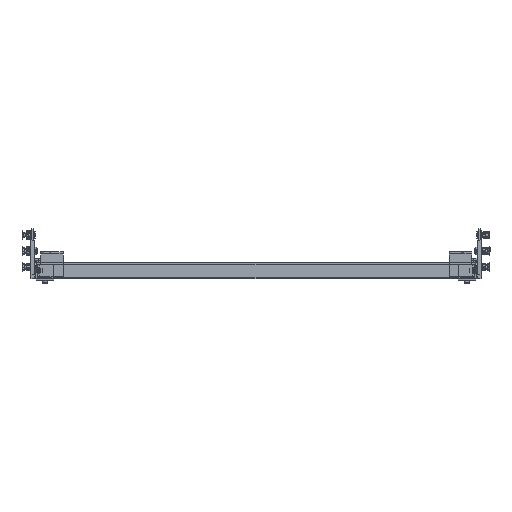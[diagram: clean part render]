
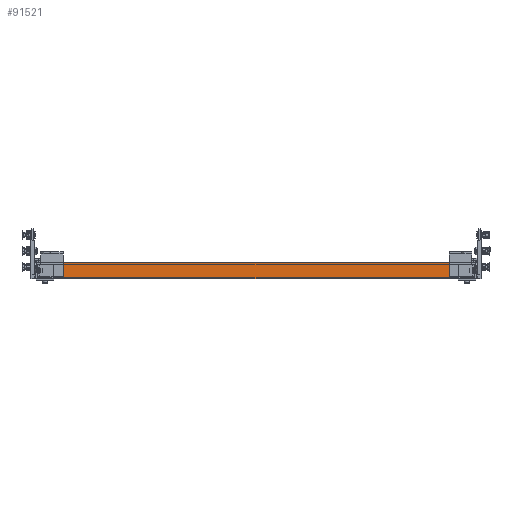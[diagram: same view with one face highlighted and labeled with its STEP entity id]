
A CAD part, front view. The second image highlights one B-rep face of the part: STEP entity #91521.
In plain terms, the highlighted planar face has unit normal (0, -1, 0) as drawn and (-1, 0, 0) by its records, which use the part's own axes.
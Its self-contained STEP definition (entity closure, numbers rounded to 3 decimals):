
#6906 = LINE ( 'NONE', #195762, #41901 ) ;
#13075 = PLANE ( 'NONE',  #54106 ) ;
#14219 = EDGE_CURVE ( 'NONE', #249986, #209405, #6906, .T. ) ;
#16962 = LINE ( 'NONE', #201207, #50598 ) ;
#23155 = CARTESIAN_POINT ( 'NONE',  ( -741.51, -314.5, 3.1 ) ) ;
#34216 = LINE ( 'NONE', #100841, #234367 ) ;
#34369 = CARTESIAN_POINT ( 'NONE',  ( -741.51, 314.5, 3.1 ) ) ;
#35584 = EDGE_CURVE ( 'NONE', #107848, #59212, #198043, .T. ) ;
#36162 = VERTEX_POINT ( 'NONE', #58309 ) ;
#37822 = DIRECTION ( 'NONE',  ( 0., 0., -1. ) ) ;
#41716 = DIRECTION ( 'NONE',  ( 0., 0., 1. ) ) ;
#41901 = VECTOR ( 'NONE', #269960, 1000. ) ;
#46980 = ORIENTED_EDGE ( 'NONE', *, *, #174970, .T. ) ;
#50598 = VECTOR ( 'NONE', #137625, 1000. ) ;
#52426 = CARTESIAN_POINT ( 'NONE',  ( -741.51, -314.5, 0. ) ) ;
#54106 = AXIS2_PLACEMENT_3D ( 'NONE', #161566, #228220, #37822 ) ;
#58309 = CARTESIAN_POINT ( 'NONE',  ( -741.51, 314.5, 25. ) ) ;
#59212 = VERTEX_POINT ( 'NONE', #52426 ) ;
#65567 = VERTEX_POINT ( 'NONE', #213569 ) ;
#70477 = DIRECTION ( 'NONE',  ( 0., 0., 1. ) ) ;
#71473 = DIRECTION ( 'NONE',  ( 0., -1., 0. ) ) ;
#79226 = CARTESIAN_POINT ( 'NONE',  ( -741.51, -314.5, 25. ) ) ;
#80345 = VERTEX_POINT ( 'NONE', #262280 ) ;
#91521 = ADVANCED_FACE ( 'NONE', ( #208013 ), #13075, .F. ) ;
#99274 = CARTESIAN_POINT ( 'NONE',  ( -741.51, 314.5, 25. ) ) ;
#100841 = CARTESIAN_POINT ( 'NONE',  ( -741.51, -314.5, 2.5 ) ) ;
#105380 = DIRECTION ( 'NONE',  ( 0., 0., 1. ) ) ;
#107848 = VERTEX_POINT ( 'NONE', #23155 ) ;
#118172 = VECTOR ( 'NONE', #41716, 1000. ) ;
#120459 = ORIENTED_EDGE ( 'NONE', *, *, #124822, .T. ) ;
#124822 = EDGE_CURVE ( 'NONE', #107848, #65567, #34216, .T. ) ;
#137625 = DIRECTION ( 'NONE',  ( 0., 0., -1. ) ) ;
#145056 = DIRECTION ( 'NONE',  ( 0., -1., 0. ) ) ;
#161566 = CARTESIAN_POINT ( 'NONE',  ( -741.51, 314.5, 2.5 ) ) ;
#167428 = LINE ( 'NONE', #99274, #275354 ) ;
#174970 = EDGE_CURVE ( 'NONE', #65567, #293407, #183576, .T. ) ;
#183576 = LINE ( 'NONE', #277978, #233060 ) ;
#184643 = VECTOR ( 'NONE', #145056, 1000. ) ;
#195762 = CARTESIAN_POINT ( 'NONE',  ( -741.51, 314.5, 3.1 ) ) ;
#197311 = VECTOR ( 'NONE', #292442, 1000. ) ;
#198043 = LINE ( 'NONE', #219754, #197311 ) ;
#200578 = ORIENTED_EDGE ( 'NONE', *, *, #212827, .F. ) ;
#201207 = CARTESIAN_POINT ( 'NONE',  ( -741.51, 314.5, 2.5 ) ) ;
#207080 = ORIENTED_EDGE ( 'NONE', *, *, #254161, .T. ) ;
#208013 = FACE_OUTER_BOUND ( 'NONE', #254532, .T. ) ;
#209405 = VERTEX_POINT ( 'NONE', #214572 ) ;
#211904 = LINE ( 'NONE', #233635, #118172 ) ;
#212827 = EDGE_CURVE ( 'NONE', #36162, #293407, #167428, .T. ) ;
#213569 = CARTESIAN_POINT ( 'NONE',  ( -741.51, -314.5, 21.9 ) ) ;
#214572 = CARTESIAN_POINT ( 'NONE',  ( -741.51, 314.5, 0. ) ) ;
#219754 = CARTESIAN_POINT ( 'NONE',  ( -741.51, -314.5, 2.5 ) ) ;
#228220 = DIRECTION ( 'NONE',  ( 1., 0., 0. ) ) ;
#233060 = VECTOR ( 'NONE', #70477, 1000. ) ;
#233123 = ORIENTED_EDGE ( 'NONE', *, *, #296084, .F. ) ;
#233635 = CARTESIAN_POINT ( 'NONE',  ( -741.51, 314.5, 2.5 ) ) ;
#234367 = VECTOR ( 'NONE', #105380, 1000. ) ;
#236456 = LINE ( 'NONE', #284399, #184643 ) ;
#247848 = ORIENTED_EDGE ( 'NONE', *, *, #291210, .T. ) ;
#249986 = VERTEX_POINT ( 'NONE', #34369 ) ;
#251857 = ORIENTED_EDGE ( 'NONE', *, *, #35584, .F. ) ;
#254161 = EDGE_CURVE ( 'NONE', #80345, #249986, #16962, .T. ) ;
#254532 = EDGE_LOOP ( 'NONE', ( #120459, #46980, #200578, #233123, #207080, #294781, #247848, #251857 ) ) ;
#262280 = CARTESIAN_POINT ( 'NONE',  ( -741.51, 314.5, 21.9 ) ) ;
#269960 = DIRECTION ( 'NONE',  ( 0., 0., -1. ) ) ;
#275354 = VECTOR ( 'NONE', #71473, 1000. ) ;
#277978 = CARTESIAN_POINT ( 'NONE',  ( -741.51, -314.5, 21.9 ) ) ;
#284399 = CARTESIAN_POINT ( 'NONE',  ( -741.51, -340.5, 0. ) ) ;
#291210 = EDGE_CURVE ( 'NONE', #209405, #59212, #236456, .T. ) ;
#292442 = DIRECTION ( 'NONE',  ( 0., 0., -1. ) ) ;
#293407 = VERTEX_POINT ( 'NONE', #79226 ) ;
#294781 = ORIENTED_EDGE ( 'NONE', *, *, #14219, .T. ) ;
#296084 = EDGE_CURVE ( 'NONE', #80345, #36162, #211904, .T. ) ;
